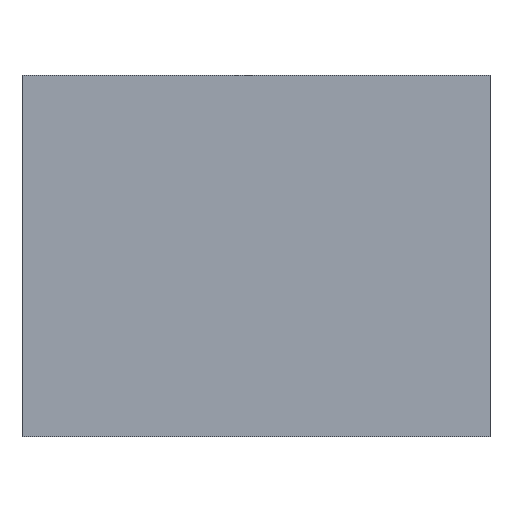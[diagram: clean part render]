
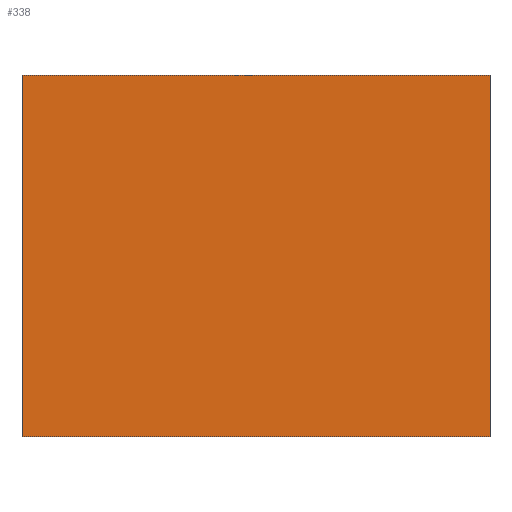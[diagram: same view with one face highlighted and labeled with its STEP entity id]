
A CAD part, top view. The second image highlights one B-rep face of the part: STEP entity #338.
In plain terms, the highlighted planar face has unit normal (0, 0, 1).
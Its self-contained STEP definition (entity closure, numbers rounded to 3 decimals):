
#24 = VERTEX_POINT('',#25);
#25 = CARTESIAN_POINT('',(-22.536,-17.408,0.));
#32 = PLANE('',#33);
#33 = AXIS2_PLACEMENT_3D('',#34,#35,#36);
#34 = CARTESIAN_POINT('',(-22.536,-17.408,-21.));
#35 = DIRECTION('',(1.,0.,0.));
#36 = DIRECTION('',(0.,0.,1.));
#44 = PLANE('',#45);
#45 = AXIS2_PLACEMENT_3D('',#46,#47,#48);
#46 = CARTESIAN_POINT('',(-22.536,-17.408,-21.));
#47 = DIRECTION('',(0.,1.,0.));
#48 = DIRECTION('',(0.,0.,1.));
#85 = VERTEX_POINT('',#86);
#86 = CARTESIAN_POINT('',(-22.536,17.408,0.));
#100 = PLANE('',#101);
#101 = AXIS2_PLACEMENT_3D('',#102,#103,#104);
#102 = CARTESIAN_POINT('',(-22.536,17.408,-21.));
#103 = DIRECTION('',(0.,1.,0.));
#104 = DIRECTION('',(0.,0.,1.));
#112 = EDGE_CURVE('',#24,#85,#113,.T.);
#113 = SURFACE_CURVE('',#114,(#118,#125),.PCURVE_S1.);
#114 = LINE('',#115,#116);
#115 = CARTESIAN_POINT('',(-22.536,-17.408,0.));
#116 = VECTOR('',#117,1.);
#117 = DIRECTION('',(0.,1.,0.));
#118 = PCURVE('',#32,#119);
#119 = DEFINITIONAL_REPRESENTATION('',(#120),#124);
#120 = LINE('',#121,#122);
#121 = CARTESIAN_POINT('',(21.,0.));
#122 = VECTOR('',#123,1.);
#123 = DIRECTION('',(0.,-1.));
#124 = ( GEOMETRIC_REPRESENTATION_CONTEXT(2) 
PARAMETRIC_REPRESENTATION_CONTEXT() REPRESENTATION_CONTEXT('2D SPACE',''
  ) );
#125 = PCURVE('',#126,#131);
#126 = PLANE('',#127);
#127 = AXIS2_PLACEMENT_3D('',#128,#129,#130);
#128 = CARTESIAN_POINT('',(-22.536,-17.408,0.));
#129 = DIRECTION('',(0.,0.,1.));
#130 = DIRECTION('',(1.,0.,0.));
#131 = DEFINITIONAL_REPRESENTATION('',(#132),#136);
#132 = LINE('',#133,#134);
#133 = CARTESIAN_POINT('',(0.,0.));
#134 = VECTOR('',#135,1.);
#135 = DIRECTION('',(0.,1.));
#136 = ( GEOMETRIC_REPRESENTATION_CONTEXT(2) 
PARAMETRIC_REPRESENTATION_CONTEXT() REPRESENTATION_CONTEXT('2D SPACE',''
  ) );
#144 = VERTEX_POINT('',#145);
#145 = CARTESIAN_POINT('',(22.536,-17.408,0.));
#152 = PLANE('',#153);
#153 = AXIS2_PLACEMENT_3D('',#154,#155,#156);
#154 = CARTESIAN_POINT('',(22.536,-17.408,-21.));
#155 = DIRECTION('',(1.,0.,0.));
#156 = DIRECTION('',(0.,0.,1.));
#195 = VERTEX_POINT('',#196);
#196 = CARTESIAN_POINT('',(22.536,17.408,0.));
#217 = EDGE_CURVE('',#144,#195,#218,.T.);
#218 = SURFACE_CURVE('',#219,(#223,#230),.PCURVE_S1.);
#219 = LINE('',#220,#221);
#220 = CARTESIAN_POINT('',(22.536,-17.408,0.));
#221 = VECTOR('',#222,1.);
#222 = DIRECTION('',(0.,1.,0.));
#223 = PCURVE('',#152,#224);
#224 = DEFINITIONAL_REPRESENTATION('',(#225),#229);
#225 = LINE('',#226,#227);
#226 = CARTESIAN_POINT('',(21.,0.));
#227 = VECTOR('',#228,1.);
#228 = DIRECTION('',(0.,-1.));
#229 = ( GEOMETRIC_REPRESENTATION_CONTEXT(2) 
PARAMETRIC_REPRESENTATION_CONTEXT() REPRESENTATION_CONTEXT('2D SPACE',''
  ) );
#230 = PCURVE('',#126,#231);
#231 = DEFINITIONAL_REPRESENTATION('',(#232),#236);
#232 = LINE('',#233,#234);
#233 = CARTESIAN_POINT('',(45.071,0.));
#234 = VECTOR('',#235,1.);
#235 = DIRECTION('',(0.,1.));
#236 = ( GEOMETRIC_REPRESENTATION_CONTEXT(2) 
PARAMETRIC_REPRESENTATION_CONTEXT() REPRESENTATION_CONTEXT('2D SPACE',''
  ) );
#263 = EDGE_CURVE('',#24,#144,#264,.T.);
#264 = SURFACE_CURVE('',#265,(#269,#276),.PCURVE_S1.);
#265 = LINE('',#266,#267);
#266 = CARTESIAN_POINT('',(-22.536,-17.408,0.));
#267 = VECTOR('',#268,1.);
#268 = DIRECTION('',(1.,0.,0.));
#269 = PCURVE('',#44,#270);
#270 = DEFINITIONAL_REPRESENTATION('',(#271),#275);
#271 = LINE('',#272,#273);
#272 = CARTESIAN_POINT('',(21.,0.));
#273 = VECTOR('',#274,1.);
#274 = DIRECTION('',(0.,1.));
#275 = ( GEOMETRIC_REPRESENTATION_CONTEXT(2) 
PARAMETRIC_REPRESENTATION_CONTEXT() REPRESENTATION_CONTEXT('2D SPACE',''
  ) );
#276 = PCURVE('',#126,#277);
#277 = DEFINITIONAL_REPRESENTATION('',(#278),#282);
#278 = LINE('',#279,#280);
#279 = CARTESIAN_POINT('',(0.,0.));
#280 = VECTOR('',#281,1.);
#281 = DIRECTION('',(1.,0.));
#282 = ( GEOMETRIC_REPRESENTATION_CONTEXT(2) 
PARAMETRIC_REPRESENTATION_CONTEXT() REPRESENTATION_CONTEXT('2D SPACE',''
  ) );
#310 = EDGE_CURVE('',#85,#195,#311,.T.);
#311 = SURFACE_CURVE('',#312,(#316,#323),.PCURVE_S1.);
#312 = LINE('',#313,#314);
#313 = CARTESIAN_POINT('',(-22.536,17.408,0.));
#314 = VECTOR('',#315,1.);
#315 = DIRECTION('',(1.,0.,0.));
#316 = PCURVE('',#100,#317);
#317 = DEFINITIONAL_REPRESENTATION('',(#318),#322);
#318 = LINE('',#319,#320);
#319 = CARTESIAN_POINT('',(21.,0.));
#320 = VECTOR('',#321,1.);
#321 = DIRECTION('',(0.,1.));
#322 = ( GEOMETRIC_REPRESENTATION_CONTEXT(2) 
PARAMETRIC_REPRESENTATION_CONTEXT() REPRESENTATION_CONTEXT('2D SPACE',''
  ) );
#323 = PCURVE('',#126,#324);
#324 = DEFINITIONAL_REPRESENTATION('',(#325),#329);
#325 = LINE('',#326,#327);
#326 = CARTESIAN_POINT('',(0.,34.815));
#327 = VECTOR('',#328,1.);
#328 = DIRECTION('',(1.,0.));
#329 = ( GEOMETRIC_REPRESENTATION_CONTEXT(2) 
PARAMETRIC_REPRESENTATION_CONTEXT() REPRESENTATION_CONTEXT('2D SPACE',''
  ) );
#338 = ADVANCED_FACE('',(#339),#126,.T.);
#339 = FACE_BOUND('',#340,.T.);
#340 = EDGE_LOOP('',(#341,#342,#343,#344));
#341 = ORIENTED_EDGE('',*,*,#112,.F.);
#342 = ORIENTED_EDGE('',*,*,#263,.T.);
#343 = ORIENTED_EDGE('',*,*,#217,.T.);
#344 = ORIENTED_EDGE('',*,*,#310,.F.);
